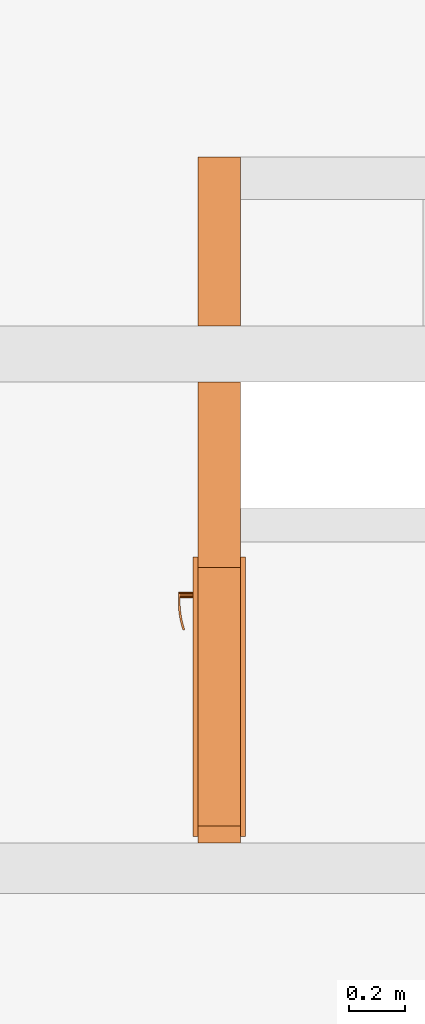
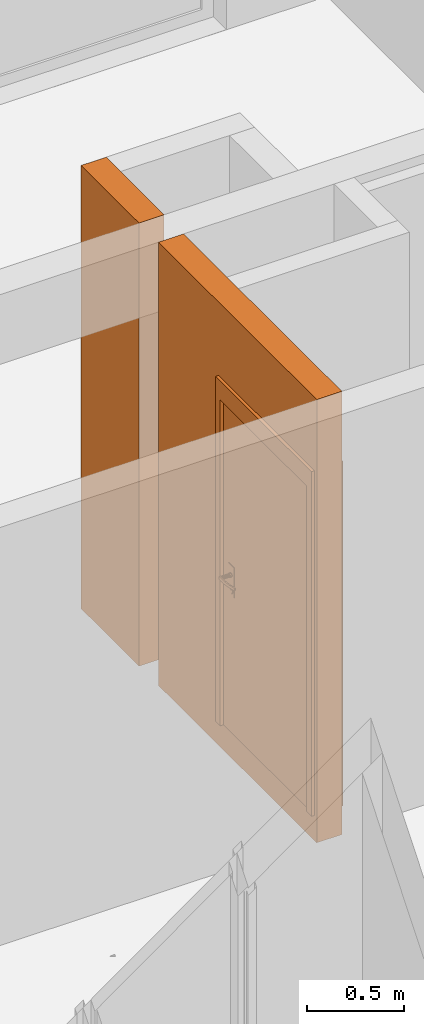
# One storey, part 51 of 67: 2 proxies, 1 opening.
"""IFC2X3 building model written with IfcOpenShell, lengths in millimetres."""

from ifc_helpers import new_model, entity, si_unit, converted_unit, derived_unit, money_unit, direction, frame, origin_with_axes, origin_2d_with_axis, place, context, subcontext, project, spatial, rectangle, extrude, open_shell, faceted_brep, surface_model, source, transform, mapped, material, type_object, element, fill, save


model = new_model("IFC2X3")

# Units and contexts
model_context = context("Model", 3, precision=0.01, world=origin_with_axes(), true_north=direction((0.34421633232, 0.938890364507)))
body_context = subcontext(model_context, "Body", "Model", "MODEL_VIEW")
ifc_project = project(units=[si_unit("LENGTHUNIT", "METRE", prefix="MILLI"), si_unit("AREAUNIT", "SQUARE_METRE"), si_unit("VOLUMEUNIT", "CUBIC_METRE"), converted_unit("PLANEANGLEUNIT", "DEGREE", entity("IfcPlaneAngleMeasure", 0.0174532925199), si_unit("PLANEANGLEUNIT", "RADIAN"), dimensions=[0, 0, 0, 0, 0, 0, 0]), si_unit("SOLIDANGLEUNIT", "STERADIAN"), money_unit("USD"), converted_unit("TIMEUNIT", "Year", entity("IfcTimeMeasure", 31556926.0), si_unit("TIMEUNIT", "SECOND"), dimensions=[0, 0, 1, 0, 0, 0, 0]), si_unit("MASSUNIT", "GRAM", prefix="KILO"), si_unit("THERMODYNAMICTEMPERATUREUNIT", "DEGREE_CELSIUS"), si_unit("LUMINOUSINTENSITYUNIT", "LUMEN"), si_unit("ENERGYUNIT", "JOULE", prefix="MEGA"), derived_unit("THERMALCONDUCTANCEUNIT", [(si_unit("POWERUNIT", "WATT"), 1), (si_unit("LENGTHUNIT", "METRE"), -1), (si_unit("THERMODYNAMICTEMPERATUREUNIT", "KELVIN"), -1)]), derived_unit("SPECIFICHEATCAPACITYUNIT", [(si_unit("ENERGYUNIT", "JOULE"), 1), (si_unit("MASSUNIT", "GRAM", prefix="KILO"), -1), (si_unit("THERMODYNAMICTEMPERATUREUNIT", "KELVIN"), -1)]), derived_unit("MASSDENSITYUNIT", [(si_unit("MASSUNIT", "GRAM", prefix="KILO"), 1), (si_unit("VOLUMEUNIT", "CUBIC_METRE"), -1)])], contexts=[model_context])

# Site, building, storey
site_placement = place(None, origin_with_axes())
site = spatial("IfcSite", under=ifc_project, at=site_placement, Name="USTRONIE MORSKIE", CompositionType="ELEMENT")
building_placement = place(site_placement, origin_with_axes())
building = spatial("IfcBuilding", under=site, at=building_placement, Name="Budynek", CompositionType="ELEMENT")
storey_placement = place(building_placement, frame((0.0, 0.0, 4000.0), z_axis=(0.0, 0.0, 1.0), x_axis=(1.0, 0.0, 0.0)))
storey = spatial("IfcBuildingStorey", under=building, at=storey_placement, Name="PIĘTRO 1", CompositionType="ELEMENT", Elevation=4000.0)

# Proxies, opening
ifc_material = material(Name="Bloczki silikatowe")
building_element_proxy_type_1 = type_object("IfcBuildingElementProxyType", Name="Bloczki silikatowe 150", PredefinedType="NOTDEFINED")
proxy_1_placement = place(storey_placement, frame((421792.920919, 745326.199036, -180.0), z_axis=(0.0, 0.0, 1.0), x_axis=(0.0, -1.0, 0.0)))
proxy_1 = element("IfcBuildingElementProxy", 1, at=proxy_1_placement, inside=storey, type_object=building_element_proxy_type_1, material=ifc_material, Name="SW-03", context=body_context, shape_type="Brep", body=[
    faceted_brep([(2364.99990795, 75.0, 2820.0), (2364.99990795, 75.0, 20.0), (725.0, 75.0, 20.0), (725.0, 75.0, 2820.0), (2364.99990795, -75.0, 2820.0), (2364.99990795, -75.0, 20.0), (725.0, -75.0, 20.0), (725.0, -75.0, 2820.0)], [[[0, 1, 2, 3]], [[4, 5, 1, 0]], [[2, 1, 5, 6]], [[2, 6, 7, 3]], [[4, 0, 3, 7]], [[6, 5, 4, 7]]]),
    faceted_brep([(525.0, 75.0, 2820.0), (525.0, 75.0, 20.0), (0.0, 75.0, 20.0), (-75.0, 75.0, 20.0), (-75.0, 75.0, 2820.0), (525.0, -75.0, 2820.0), (525.0, -75.0, 20.0), (0.0, -75.0, 20.0), (-75.0, -75.0, 20.0), (-75.0, -75.0, 2820.0)], [[[0, 1, 2, 3, 4]], [[5, 6, 1, 0]], [[6, 7, 2, 1]], [[3, 2, 7, 8]], [[4, 3, 8, 9]], [[4, 9, 5, 0]], [[8, 7, 6, 5, 9]]]),
])
opening_placement = place(proxy_1_placement, frame((1845.0, 0.0, 180.0), z_axis=(0.0, 0.0, 1.0), x_axis=(1.0, 0.0, 0.0)))
opening = element("IfcOpeningElement", 2, at=opening_placement, cuts=proxy_1, Name="Dw.4", context=body_context, shape_type="SweptSolid", body=[
    extrude(rectangle(XDim=920.0, YDim=2070.0, at=origin_2d_with_axis()), frame((0.0, 150.0, 1035.0), z_axis=(0.0, 1.0, 0.0), x_axis=(1.0, 0.0, 0.0)), (0.0, 0.0, -1.0), 450.0),
    extrude(rectangle(XDim=994.0, YDim=2177.0, at=origin_2d_with_axis()), frame((0.0, 75.0, 1088.5), z_axis=(0.0, 1.0, 0.0), x_axis=(1.0, 0.0, 0.0)), (0.0, 0.0, 1.0), 150.0),
    extrude(rectangle(XDim=994.0, YDim=2177.0, at=origin_2d_with_axis()), frame((0.0, -75.0, 1088.5), z_axis=(0.0, -1.0, 0.0), x_axis=(1.0, 0.0, 0.0)), (0.0, 0.0, 1.0), 150.0),
])
building_element_proxy_type_2 = type_object("IfcBuildingElementProxyType", Name="Drzwi 23", PredefinedType="NOTDEFINED")
shared_shape = source(origin_with_axes(), body_context, "Body", "SurfaceModel", [
    faceted_brep([(460.0, -115.0, 0.0), (460.0, -150.0, 0.0), (435.0, -150.0, 0.0), (435.0, -115.0, 0.0), (460.0, -115.0, 2070.0), (460.0, -150.0, 2070.0), (435.0, -150.0, 2045.0), (435.0, -115.0, 2045.0)], [[[0, 1, 2, 3]], [[4, 5, 1, 0]], [[1, 5, 6, 2]], [[3, 2, 6, 7]], [[0, 3, 7, 4]], [[7, 6, 5, 4]]]),
    faceted_brep([(-460.0, -115.0, 2070.0), (-460.0, -150.0, 2070.0), (-435.0, -150.0, 2045.0), (-435.0, -115.0, 2045.0), (-460.0, -115.0, 0.0), (-460.0, -150.0, 0.0), (-435.0, -150.0, 0.0), (-435.0, -115.0, 0.0)], [[[0, 1, 2, 3]], [[4, 5, 1, 0]], [[1, 5, 6, 2]], [[3, 2, 6, 7]], [[0, 3, 7, 4]], [[7, 6, 5, 4]]]),
    faceted_brep([(435.0, -115.0, 2045.0), (435.0, -150.0, 2045.0), (-435.0, -150.0, 2045.0), (-435.0, -115.0, 2045.0), (460.0, -115.0, 2070.0), (460.0, -150.0, 2070.0), (-460.0, -150.0, 2070.0), (-460.0, -115.0, 2070.0)], [[[0, 1, 2, 3]], [[4, 5, 1, 0]], [[1, 5, 6, 2]], [[3, 2, 6, 7]], [[0, 3, 7, 4]], [[7, 6, 5, 4]]]),
    faceted_brep([(497.0, -169.0, 0.0), (447.0, -169.0, 0.0), (447.0, -150.0, 0.0), (497.0, -150.0, 0.0), (497.0, -169.0, 2177.0), (447.0, -169.0, 2057.0), (447.0, -150.0, 2057.0), (497.0, -150.0, 2177.0)], [[[0, 1, 2, 3]], [[0, 4, 5, 1]], [[1, 5, 6, 2]], [[3, 2, 6, 7]], [[4, 0, 3, 7]], [[5, 4, 7, 6]]]),
    faceted_brep([(-497.0, -169.0, 2177.0), (-447.0, -169.0, 2057.0), (-447.0, -150.0, 2057.0), (-497.0, -150.0, 2177.0), (-497.0, -169.0, 0.0), (-447.0, -169.0, 0.0), (-447.0, -150.0, 0.0), (-497.0, -150.0, 0.0)], [[[0, 1, 2, 3]], [[0, 4, 5, 1]], [[1, 5, 6, 2]], [[3, 2, 6, 7]], [[4, 0, 3, 7]], [[5, 4, 7, 6]]]),
    faceted_brep([(497.0, -169.0, 2177.0), (447.0, -169.0, 2057.0), (447.0, -150.0, 2057.0), (497.0, -150.0, 2177.0), (-497.0, -169.0, 2177.0), (-447.0, -169.0, 2057.0), (-447.0, -150.0, 2057.0), (-497.0, -150.0, 2177.0)], [[[0, 1, 2, 3]], [[0, 4, 5, 1]], [[1, 5, 6, 2]], [[3, 2, 6, 7]], [[4, 0, 3, 7]], [[5, 4, 7, 6]]]),
    faceted_brep([(497.0, 19.0, 0.0), (497.0, 0.0, 0.0), (447.0, 0.0, 0.0), (447.0, 19.0, 0.0), (497.0, 19.0, 2177.0), (497.0, 0.0, 2177.0), (447.0, 0.0, 2057.0), (447.0, 19.0, 2057.0)], [[[0, 1, 2, 3]], [[4, 5, 1, 0]], [[1, 5, 6, 2]], [[3, 2, 6, 7]], [[0, 3, 7, 4]], [[7, 6, 5, 4]]]),
    faceted_brep([(-497.0, 19.0, 2177.0), (-497.0, 0.0, 2177.0), (-447.0, 0.0, 2057.0), (-447.0, 19.0, 2057.0), (-497.0, 19.0, 0.0), (-497.0, 0.0, 0.0), (-447.0, 0.0, 0.0), (-447.0, 19.0, 0.0)], [[[0, 1, 2, 3]], [[4, 5, 1, 0]], [[1, 5, 6, 2]], [[3, 2, 6, 7]], [[0, 3, 7, 4]], [[7, 6, 5, 4]]]),
    faceted_brep([(497.0, 19.0, 2177.0), (497.0, 0.0, 2177.0), (447.0, 0.0, 2057.0), (447.0, 19.0, 2057.0), (-497.0, 19.0, 2177.0), (-497.0, 0.0, 2177.0), (-447.0, 0.0, 2057.0), (-447.0, 19.0, 2057.0)], [[[0, 1, 2, 3]], [[4, 5, 1, 0]], [[1, 5, 6, 2]], [[3, 2, 6, 7]], [[0, 3, 7, 4]], [[7, 6, 5, 4]]]),
    faceted_brep([(400.0, -40.0, 0.0), (400.0, -115.0, 0.0), (400.0, -115.0, 2000.0), (400.0, -40.0, 2000.0), (412.0, -40.0, 0.0), (412.0, 0.0, 0.0), (460.0, 0.0, 0.0), (460.0, -115.0, 0.0), (460.0, -115.0, 2000.0), (412.0, -40.0, 2000.0), (460.0, 0.0, 2000.0), (412.0, 0.0, 2000.0)], [[[0, 1, 2, 3]], [[4, 5, 6, 7, 1, 0]], [[1, 7, 8, 2]], [[9, 3, 2, 8, 10, 11]], [[9, 4, 0, 3]], [[11, 5, 4, 9]], [[11, 10, 6, 5]], [[6, 10, 8, 7]]]),
    faceted_brep([(-412.0, -40.0, 2000.0), (-412.0, 0.0, 2000.0), (-460.0, 0.0, 2000.0), (-460.0, -115.0, 2000.0), (-400.0, -115.0, 2000.0), (-400.0, -40.0, 2000.0), (-412.0, -40.0, 0.0), (-412.0, 0.0, 0.0), (-460.0, 0.0, 0.0), (-460.0, -115.0, 0.0), (-400.0, -115.0, 0.0), (-400.0, -40.0, 0.0)], [[[0, 1, 2, 3, 4, 5]], [[0, 6, 7, 1]], [[7, 8, 2, 1]], [[2, 8, 9, 3]], [[3, 9, 10, 4]], [[5, 4, 10, 11]], [[5, 11, 6, 0]], [[6, 11, 10, 9, 8, 7]]]),
    faceted_brep([(412.0, 0.0, 2012.0), (-412.0, 0.0, 2012.0), (-412.0, 0.0, 2000.0), (-460.0, 0.0, 2000.0), (-460.0, 0.0, 2070.0), (460.0, 0.0, 2070.0), (460.0, 0.0, 2000.0), (412.0, 0.0, 2000.0), (412.0, -40.0, 2012.0), (-412.0, -40.0, 2012.0), (-412.0, -40.0, 2000.0), (-400.0, -40.0, 2000.0), (-400.0, -115.0, 2000.0), (-460.0, -115.0, 2000.0), (-460.0, -115.0, 2070.0), (460.0, -115.0, 2070.0), (460.0, -115.0, 2000.0), (412.0, -40.0, 2000.0), (400.0, -115.0, 2000.0), (400.0, -40.0, 2000.0)], [[[0, 1, 2, 3, 4, 5, 6, 7]], [[0, 8, 9, 1]], [[1, 9, 10, 2]], [[10, 11, 12, 13, 3, 2]], [[4, 3, 13, 14]], [[5, 4, 14, 15]], [[6, 5, 15, 16]], [[17, 7, 6, 16, 18, 19]], [[7, 17, 8, 0]], [[10, 9, 8, 17, 19, 11]], [[19, 18, 12, 11]], [[12, 18, 16, 15, 14, 13]]]),
    faceted_brep([(390.5, -40.0, 1060.0), (333.5, -40.0, 1060.0), (333.5, -43.0, 1060.0), (390.5, -43.0, 1060.0), (390.5, -40.0, 870.0), (333.5, -40.0, 870.0), (333.5, -43.0, 870.0), (390.5, -43.0, 870.0)], [[[0, 1, 2, 3]], [[0, 4, 5, 1]], [[1, 5, 6, 2]], [[3, 2, 6, 7]], [[4, 0, 3, 7]], [[5, 4, 7, 6]]]),
    faceted_brep([(362.0, -104.0, 990.0), (367.0, -104.0, 991.339745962), (367.0, -111.0, 991.339745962), (362.0, -111.0, 990.0), (337.0, -104.0, 990.0), (337.0, -104.0, 1010.0), (362.0, -104.0, 1010.0), (367.0, -104.0, 1008.66025404), (370.660254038, -104.0, 1005.0), (372.0, -104.0, 1000.0), (370.660254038, -104.0, 995.0), (370.660254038, -111.0, 995.0), (372.0, -111.0, 1000.0), (370.660254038, -111.0, 1005.0), (367.0, -111.0, 1008.66025404), (362.0, -111.0, 1010.0), (337.0, -111.0, 1010.0), (337.0, -111.0, 990.0)], [[[0, 1, 2, 3]], [[0, 4, 5, 6, 7, 8, 9, 10, 1]], [[1, 10, 11, 2]], [[3, 2, 11, 12, 13, 14, 15, 16, 17]], [[4, 0, 3, 17]], [[5, 4, 17, 16]], [[6, 5, 16, 15]], [[7, 6, 15, 14]], [[8, 7, 14, 13]], [[9, 8, 13, 12]], [[10, 9, 12, 11]]]),
    surface_model("IfcShellBasedSurfaceModel", [(337.0, -104.0, 1010.0), (323.901717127, -104.0, 1009.60730092), (323.596090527, -111.0, 1009.60730092), (337.0, -104.0, 990.0), (323.901717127, -104.0, 990.392699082), (296.890283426, -108.663544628, 1008.82190275), (337.0, -111.0, 1010.0), (337.0, -111.0, 990.0), (297.804837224, -101.716818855, 991.178097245), (297.804837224, -101.716818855, 1008.82190275), (296.890283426, -108.663544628, 991.178097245), (323.596090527, -111.0, 990.392699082), (272.006256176, -97.1678329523, 991.963495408), (272.006256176, -97.1678329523, 1008.03650459), (270.489735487, -104.008415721, 1008.03650459), (270.489735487, -104.008415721, 991.963495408), (246.702316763, -90.3876628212, 992.748893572), (246.702316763, -90.3876628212, 1007.25110643), (244.59537082, -97.0700416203, 1007.25110643), (244.59537082, -97.0700416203, 992.748893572), (238.829442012, -87.5221707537, 993.0), (238.829442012, -87.5221707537, 1007.0), (236.538795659, -94.1376880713, 1007.0), (236.538795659, -94.1376880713, 993.0)], [open_shell([[[0, 1, 2]], [[0, 3, 4, 1]], [[1, 5, 2]], [[0, 2, 6]], [[4, 3, 7]], [[1, 4, 8, 9]], [[1, 9, 5]], [[2, 5, 10, 11]], [[6, 2, 11, 7]], [[4, 7, 11]], [[8, 4, 11]], [[9, 8, 12, 13]], [[9, 14, 5]], [[5, 14, 15, 10]], [[8, 11, 10]], [[12, 8, 10]], [[13, 12, 16, 17]], [[9, 13, 14]], [[14, 18, 19, 15]], [[12, 10, 15]], [[16, 12, 15]], [[17, 16, 20, 21]], [[13, 17, 18]], [[13, 18, 14]], [[18, 22, 23, 19]], [[16, 15, 19]], [[20, 16, 19]], [[21, 20, 23, 22]], [[17, 21, 22]], [[17, 22, 18]], [[20, 19, 23]]])]),
    faceted_brep([(351.607695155, -53.0, 994.0), (350.0, -53.0, 1000.0), (349.0, -43.0, 1000.0), (350.741669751, -43.0, 993.5), (356.0, -53.0, 989.607695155), (362.0, -53.0, 988.0), (368.0, -53.0, 989.607695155), (372.392304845, -53.0, 994.0), (374.0, -53.0, 1000.0), (372.392304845, -53.0, 1006.0), (368.0, -53.0, 1010.39230485), (362.0, -53.0, 1012.0), (356.0, -53.0, 1010.39230485), (351.607695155, -53.0, 1006.0), (350.741669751, -43.0, 1006.5), (355.5, -43.0, 1011.25833025), (362.0, -43.0, 1013.0), (368.5, -43.0, 1011.25833025), (373.258330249, -43.0, 1006.5), (375.0, -43.0, 1000.0), (373.258330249, -43.0, 993.5), (368.5, -43.0, 988.741669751), (362.0, -43.0, 987.0), (355.5, -43.0, 988.741669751)], [[[0, 1, 2, 3]], [[1, 0, 4, 5, 6, 7, 8, 9, 10, 11, 12, 13]], [[1, 13, 14, 2]], [[2, 14, 15, 16, 17, 18, 19, 20, 21, 22, 23, 3]], [[4, 0, 3, 23]], [[5, 4, 23, 22]], [[6, 5, 22, 21]], [[7, 6, 21, 20]], [[8, 7, 20, 19]], [[9, 8, 19, 18]], [[10, 9, 18, 17]], [[11, 10, 17, 16]], [[12, 11, 16, 15]], [[13, 12, 15, 14]]]),
    faceted_brep([(344.679491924, -47.0, 895.0), (342.0, -47.0, 905.0), (340.0, -43.0, 905.0), (342.947441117, -43.0, 894.0), (352.0, -47.0, 887.679491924), (362.0, -47.0, 885.0), (372.0, -47.0, 887.679491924), (379.320508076, -47.0, 895.0), (382.0, -47.0, 905.0), (379.320508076, -47.0, 915.0), (372.0, -47.0, 922.320508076), (362.0, -47.0, 925.0), (352.0, -47.0, 922.320508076), (344.679491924, -47.0, 915.0), (342.947441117, -43.0, 916.0), (351.0, -43.0, 924.052558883), (362.0, -43.0, 927.0), (373.0, -43.0, 924.052558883), (381.052558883, -43.0, 916.0), (384.0, -43.0, 905.0), (381.052558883, -43.0, 894.0), (373.0, -43.0, 885.947441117), (362.0, -43.0, 883.0), (351.0, -43.0, 885.947441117)], [[[0, 1, 2, 3]], [[1, 0, 4, 5, 6, 7, 8, 9, 10, 11, 12, 13]], [[1, 13, 14, 2]], [[2, 14, 15, 16, 17, 18, 19, 20, 21, 22, 23, 3]], [[4, 0, 3, 23]], [[5, 4, 23, 22]], [[6, 5, 22, 21]], [[7, 6, 21, 20]], [[8, 7, 20, 19]], [[9, 8, 19, 18]], [[10, 9, 18, 17]], [[11, 10, 17, 16]], [[12, 11, 16, 15]], [[13, 12, 15, 14]]]),
    faceted_brep([(357.050252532, -49.0, 909.050252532), (355.0, -49.0, 914.0), (354.0, -47.0, 914.0), (356.343145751, -47.0, 908.343145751), (362.0, -49.0, 907.0), (366.949747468, -49.0, 909.050252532), (369.0, -49.0, 914.0), (366.949747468, -49.0, 918.949747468), (362.0, -49.0, 921.0), (357.050252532, -49.0, 918.949747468), (356.343145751, -47.0, 919.656854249), (362.0, -47.0, 922.0), (367.656854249, -47.0, 919.656854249), (370.0, -47.0, 914.0), (367.656854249, -47.0, 908.343145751), (362.0, -47.0, 906.0)], [[[0, 1, 2, 3]], [[1, 0, 4, 5, 6, 7, 8, 9]], [[1, 9, 10, 2]], [[2, 10, 11, 12, 13, 14, 15, 3]], [[4, 0, 3, 15]], [[5, 4, 15, 14]], [[6, 5, 14, 13]], [[7, 6, 13, 12]], [[8, 7, 12, 11]], [[9, 8, 11, 10]]]),
    faceted_brep([(362.0, -53.0, 1010.0), (357.0, -53.0, 1008.66025404), (357.0, -104.0, 1008.66025404), (362.0, -104.0, 1010.0), (367.0, -53.0, 1008.66025404), (370.660254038, -53.0, 1005.0), (372.0, -53.0, 1000.0), (370.660254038, -53.0, 995.0), (367.0, -53.0, 991.339745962), (362.0, -53.0, 990.0), (357.0, -53.0, 991.339745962), (353.339745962, -53.0, 995.0), (352.0, -53.0, 1000.0), (353.339745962, -53.0, 1005.0), (353.339745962, -104.0, 1005.0), (352.0, -104.0, 1000.0), (353.339745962, -104.0, 995.0), (357.0, -104.0, 991.339745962), (362.0, -104.0, 990.0), (367.0, -104.0, 991.339745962), (370.660254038, -104.0, 995.0), (372.0, -104.0, 1000.0), (370.660254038, -104.0, 1005.0), (367.0, -104.0, 1008.66025404)], [[[0, 1, 2, 3]], [[0, 4, 5, 6, 7, 8, 9, 10, 11, 12, 13, 1]], [[1, 13, 14, 2]], [[3, 2, 14, 15, 16, 17, 18, 19, 20, 21, 22, 23]], [[4, 0, 3, 23]], [[5, 4, 23, 22]], [[6, 5, 22, 21]], [[7, 6, 21, 20]], [[8, 7, 20, 19]], [[9, 8, 19, 18]], [[10, 9, 18, 17]], [[11, 10, 17, 16]], [[12, 11, 16, 15]], [[13, 12, 15, 14]]]),
    faceted_brep([(390.5, 0.0, 1060.0), (390.5, 3.0, 1060.0), (333.5, 3.0, 1060.0), (333.5, 0.0, 1060.0), (390.5, 0.0, 870.0), (390.5, 3.0, 870.0), (333.5, 3.0, 870.0), (333.5, 0.0, 870.0)], [[[0, 1, 2, 3]], [[4, 5, 1, 0]], [[1, 5, 6, 2]], [[3, 2, 6, 7]], [[0, 3, 7, 4]], [[7, 6, 5, 4]]]),
    faceted_brep([(362.0, 64.0, 990.0), (362.0, 71.0, 990.0), (367.0, 71.0, 991.339745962), (367.0, 64.0, 991.339745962), (337.0, 64.0, 990.0), (337.0, 71.0, 990.0), (337.0, 71.0, 1010.0), (362.0, 71.0, 1010.0), (367.0, 71.0, 1008.66025404), (370.660254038, 71.0, 1005.0), (372.0, 71.0, 1000.0), (370.660254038, 71.0, 995.0), (370.660254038, 64.0, 995.0), (372.0, 64.0, 1000.0), (370.660254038, 64.0, 1005.0), (367.0, 64.0, 1008.66025404), (362.0, 64.0, 1010.0), (337.0, 64.0, 1010.0)], [[[0, 1, 2, 3]], [[4, 5, 1, 0]], [[1, 5, 6, 7, 8, 9, 10, 11, 2]], [[3, 2, 11, 12]], [[0, 3, 12, 13, 14, 15, 16, 17, 4]], [[17, 6, 5, 4]], [[16, 7, 6, 17]], [[15, 8, 7, 16]], [[14, 9, 8, 15]], [[13, 10, 9, 14]], [[12, 11, 10, 13]]]),
    surface_model("IfcShellBasedSurfaceModel", [(337.0, 64.0, 1010.0), (323.596090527, 71.0, 1009.60730092), (323.901717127, 64.0, 1009.60730092), (337.0, 71.0, 1010.0), (296.890283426, 68.6635446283, 1008.82190275), (323.901717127, 64.0, 990.392699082), (337.0, 64.0, 990.0), (337.0, 71.0, 990.0), (323.596090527, 71.0, 990.392699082), (296.890283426, 68.6635446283, 991.178097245), (297.804837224, 61.716818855, 1008.82190275), (297.804837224, 61.716818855, 991.178097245), (270.489735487, 64.0084157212, 991.963495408), (270.489735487, 64.0084157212, 1008.03650459), (272.006256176, 57.1678329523, 1008.03650459), (272.006256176, 57.1678329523, 991.963495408), (244.59537082, 57.0700416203, 992.748893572), (244.59537082, 57.0700416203, 1007.25110643), (246.702316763, 50.3876628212, 1007.25110643), (246.702316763, 50.3876628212, 992.748893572), (236.538795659, 54.1376880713, 993.0), (236.538795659, 54.1376880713, 1007.0), (238.829442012, 47.5221707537, 1007.0), (238.829442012, 47.5221707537, 993.0)], [open_shell([[[0, 1, 2]], [[0, 3, 1]], [[2, 1, 4]], [[0, 2, 5, 6]], [[3, 7, 8, 1]], [[1, 8, 9, 4]], [[2, 4, 10]], [[2, 10, 11, 5]], [[5, 7, 6]], [[5, 8, 7]], [[11, 9, 8]], [[4, 9, 12, 13]], [[10, 4, 13]], [[10, 14, 15, 11]], [[11, 8, 5]], [[15, 9, 11]], [[15, 12, 9]], [[13, 12, 16, 17]], [[10, 13, 14]], [[14, 18, 19, 15]], [[19, 12, 15]], [[19, 16, 12]], [[17, 16, 20, 21]], [[14, 13, 17]], [[14, 17, 18]], [[18, 22, 23, 19]], [[23, 16, 19]], [[23, 20, 16]], [[22, 21, 20, 23]], [[18, 17, 21]], [[18, 21, 22]]])]),
    faceted_brep([(351.607695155, 13.0, 994.0), (350.741669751, 3.0, 993.5), (349.0, 3.0, 1000.0), (350.0, 13.0, 1000.0), (356.0, 13.0, 989.607695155), (355.5, 3.0, 988.741669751), (362.0, 3.0, 987.0), (368.5, 3.0, 988.741669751), (373.258330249, 3.0, 993.5), (375.0, 3.0, 1000.0), (373.258330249, 3.0, 1006.5), (368.5, 3.0, 1011.25833025), (362.0, 3.0, 1013.0), (355.5, 3.0, 1011.25833025), (350.741669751, 3.0, 1006.5), (351.607695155, 13.0, 1006.0), (356.0, 13.0, 1010.39230485), (362.0, 13.0, 1012.0), (368.0, 13.0, 1010.39230485), (372.392304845, 13.0, 1006.0), (374.0, 13.0, 1000.0), (372.392304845, 13.0, 994.0), (368.0, 13.0, 989.607695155), (362.0, 13.0, 988.0)], [[[0, 1, 2, 3]], [[4, 5, 1, 0]], [[2, 1, 5, 6, 7, 8, 9, 10, 11, 12, 13, 14]], [[3, 2, 14, 15]], [[3, 15, 16, 17, 18, 19, 20, 21, 22, 23, 4, 0]], [[23, 6, 5, 4]], [[22, 7, 6, 23]], [[21, 8, 7, 22]], [[20, 9, 8, 21]], [[19, 10, 9, 20]], [[18, 11, 10, 19]], [[17, 12, 11, 18]], [[16, 13, 12, 17]], [[15, 14, 13, 16]]]),
    faceted_brep([(344.679491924, 7.0, 895.0), (342.947441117, 3.0, 894.0), (340.0, 3.0, 905.0), (342.0, 7.0, 905.0), (352.0, 7.0, 887.679491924), (351.0, 3.0, 885.947441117), (362.0, 3.0, 883.0), (373.0, 3.0, 885.947441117), (381.052558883, 3.0, 894.0), (384.0, 3.0, 905.0), (381.052558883, 3.0, 916.0), (373.0, 3.0, 924.052558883), (362.0, 3.0, 927.0), (351.0, 3.0, 924.052558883), (342.947441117, 3.0, 916.0), (344.679491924, 7.0, 915.0), (352.0, 7.0, 922.320508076), (362.0, 7.0, 925.0), (372.0, 7.0, 922.320508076), (379.320508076, 7.0, 915.0), (382.0, 7.0, 905.0), (379.320508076, 7.0, 895.0), (372.0, 7.0, 887.679491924), (362.0, 7.0, 885.0)], [[[0, 1, 2, 3]], [[4, 5, 1, 0]], [[2, 1, 5, 6, 7, 8, 9, 10, 11, 12, 13, 14]], [[3, 2, 14, 15]], [[3, 15, 16, 17, 18, 19, 20, 21, 22, 23, 4, 0]], [[23, 6, 5, 4]], [[22, 7, 6, 23]], [[21, 8, 7, 22]], [[20, 9, 8, 21]], [[19, 10, 9, 20]], [[18, 11, 10, 19]], [[17, 12, 11, 18]], [[16, 13, 12, 17]], [[15, 14, 13, 16]]]),
    faceted_brep([(357.050252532, 9.0, 909.050252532), (356.343145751, 7.0, 908.343145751), (354.0, 7.0, 914.0), (355.0, 9.0, 914.0), (362.0, 9.0, 907.0), (362.0, 7.0, 906.0), (367.656854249, 7.0, 908.343145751), (370.0, 7.0, 914.0), (367.656854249, 7.0, 919.656854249), (362.0, 7.0, 922.0), (356.343145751, 7.0, 919.656854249), (357.050252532, 9.0, 918.949747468), (362.0, 9.0, 921.0), (366.949747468, 9.0, 918.949747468), (369.0, 9.0, 914.0), (366.949747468, 9.0, 909.050252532)], [[[0, 1, 2, 3]], [[4, 5, 1, 0]], [[2, 1, 5, 6, 7, 8, 9, 10]], [[3, 2, 10, 11]], [[3, 11, 12, 13, 14, 15, 4, 0]], [[15, 6, 5, 4]], [[14, 7, 6, 15]], [[13, 8, 7, 14]], [[12, 9, 8, 13]], [[11, 10, 9, 12]]]),
    faceted_brep([(362.0, 13.0, 1010.0), (362.0, 64.0, 1010.0), (357.0, 64.0, 1008.66025404), (357.0, 13.0, 1008.66025404), (367.0, 13.0, 1008.66025404), (367.0, 64.0, 1008.66025404), (370.660254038, 64.0, 1005.0), (372.0, 64.0, 1000.0), (370.660254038, 64.0, 995.0), (367.0, 64.0, 991.339745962), (362.0, 64.0, 990.0), (357.0, 64.0, 991.339745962), (353.339745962, 64.0, 995.0), (352.0, 64.0, 1000.0), (353.339745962, 64.0, 1005.0), (353.339745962, 13.0, 1005.0), (352.0, 13.0, 1000.0), (353.339745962, 13.0, 995.0), (357.0, 13.0, 991.339745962), (362.0, 13.0, 990.0), (367.0, 13.0, 991.339745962), (370.660254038, 13.0, 995.0), (372.0, 13.0, 1000.0), (370.660254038, 13.0, 1005.0)], [[[0, 1, 2, 3]], [[4, 5, 1, 0]], [[1, 5, 6, 7, 8, 9, 10, 11, 12, 13, 14, 2]], [[3, 2, 14, 15]], [[0, 3, 15, 16, 17, 18, 19, 20, 21, 22, 23, 4]], [[23, 6, 5, 4]], [[22, 7, 6, 23]], [[21, 8, 7, 22]], [[20, 9, 8, 21]], [[19, 10, 9, 20]], [[18, 11, 10, 19]], [[17, 12, 11, 18]], [[16, 13, 12, 17]], [[15, 14, 13, 16]]]),
    faceted_brep([(-412.0, 0.0, 0.0), (412.0, 0.0, 0.0), (412.0, -40.0, 0.0), (-412.0, -40.0, 0.0), (-412.0, 0.0, 2012.0), (412.0, 0.0, 2012.0), (412.0, -40.0, 2012.0), (-412.0, -40.0, 2012.0)], [[[0, 1, 2, 3]], [[0, 4, 5, 1]], [[1, 5, 6, 2]], [[3, 2, 6, 7]], [[4, 0, 3, 7]], [[5, 4, 7, 6]]]),
])
proxy_2_placement = place(opening_placement, frame((400.0, 0.0, 0.0), z_axis=(0.0, 0.0, 1.0), x_axis=(-1.0, 0.0, 0.0)))
proxy_2 = element("IfcBuildingElementProxy", 3, at=proxy_2_placement, inside=storey, type_object=building_element_proxy_type_2, Name="Dw.4", context=body_context, shape_type="MappedRepresentation", body=[
    mapped(shared_shape, transform((400.0, 75.0, 0.0))),
])
fill(opening, proxy_2)

save(model, "model.ifc")
